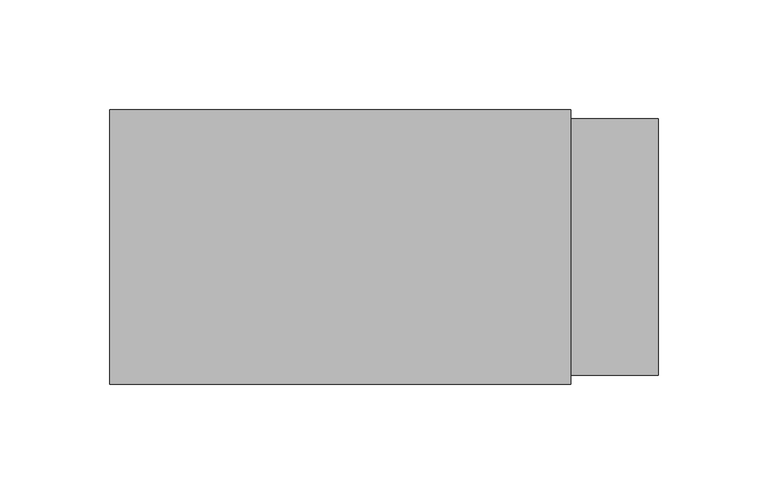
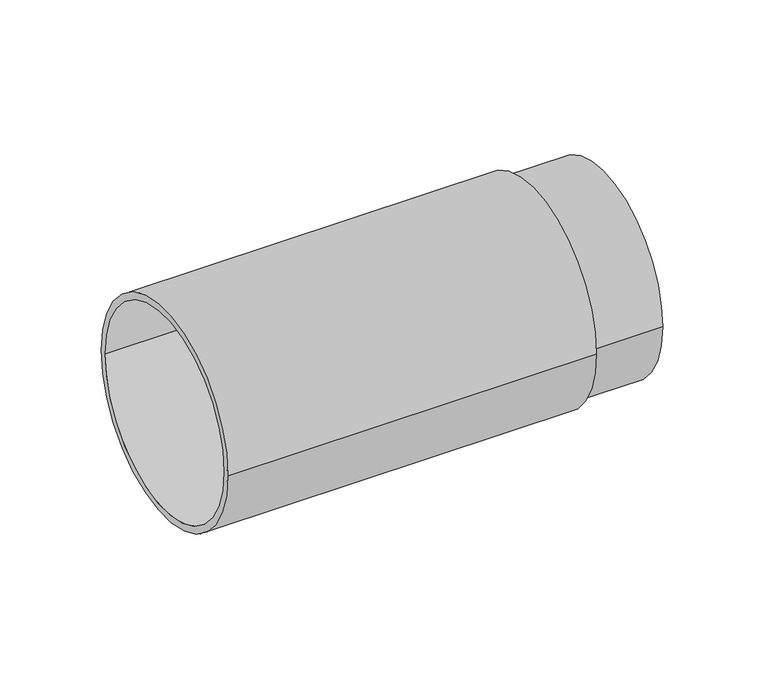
"""IFC4 building model written with IfcOpenShell, lengths in millimetres: duct fitting geometry, NLRS_57_DUF_UN_terminal extension_M&G : 117/125mm."""

from ifc_helpers import new_model, si_unit, point, frame, origin, origin_2d, place, context, project, spatial, circle_curve, trimmed, segment, composite_curve, outline, extrude, source, transform, mapped, element, save


def duct_fitting_542e432b(model_context):
    return source(origin(), model_context, "Body", "SweptSolid", [
        extrude(outline(composite_curve([segment(trimmed(circle_curve(origin_2d(), 58.5), [point((-58.5, 0.0))], [point((58.5, 0.0))], False, "CARTESIAN"), True, "CONTINUOUS"), segment(trimmed(circle_curve(origin_2d(), 58.5), [point((58.5, 0.0))], [point((-58.5, 0.0))], False, "CARTESIAN"), True, "CONTINUOUS")], self_intersect=False)), frame((210.0, 0.0, 0.0), z_axis=(1.0, 0.0, 0.0), x_axis=(0.0, 1.0, 0.0)), (0.0, 0.0, 1.0), 40.0),
        extrude(outline(composite_curve([segment(trimmed(circle_curve(origin_2d(), 62.5), [point((-62.5, 0.0))], [point((62.5, 0.0))], False, "CARTESIAN"), True, "CONTINUOUS"), segment(trimmed(circle_curve(origin_2d(), 62.5), [point((62.5, 0.0))], [point((-62.5, 0.0))], False, "CARTESIAN"), True, "CONTINUOUS")], self_intersect=False), holes=[composite_curve([segment(trimmed(circle_curve(origin_2d(), 58.5), [point((-58.5, 0.0))], [point((58.5, 0.0))], True, "CARTESIAN"), True, "CONTINUOUS"), segment(trimmed(circle_curve(origin_2d(), 58.5), [point((58.5, 0.0))], [point((-58.5, 0.0))], True, "CARTESIAN"), True, "CONTINUOUS")], self_intersect=False)]), frame((0.0, 0.0, 0.0), z_axis=(1.0, 0.0, 0.0), x_axis=(0.0, 1.0, 0.0)), (0.0, 0.0, 1.0), 210.0),
    ])


if __name__ == "__main__":
    model = new_model("IFC4")
    model_context = context("Model", 3, world=origin())
    ifc_project = project(units=[si_unit("LENGTHUNIT", "METRE", prefix="MILLI")], contexts=[model_context])
    site = spatial("IfcSite", under=ifc_project)
    building = spatial("IfcBuilding", under=site)
    placement = place(None, origin())
    duct_fitting_shape = duct_fitting_542e432b(model_context)
    element("IfcDuctFitting", 1, ObjectType="NLRS_57_DUF_UN_terminal extension_M&G : 117/125mm", at=placement, inside=building, context=model_context, shape_type="MappedRepresentation", body=[
        mapped(duct_fitting_shape, transform((0.0, 0.0, 0.0), x_axis=(1.0, 0.0, 0.0), y_axis=(0.0, 1.0, 0.0), z_axis=(0.0, 0.0, 1.0))),
    ])
    save(model, "model.ifc")
